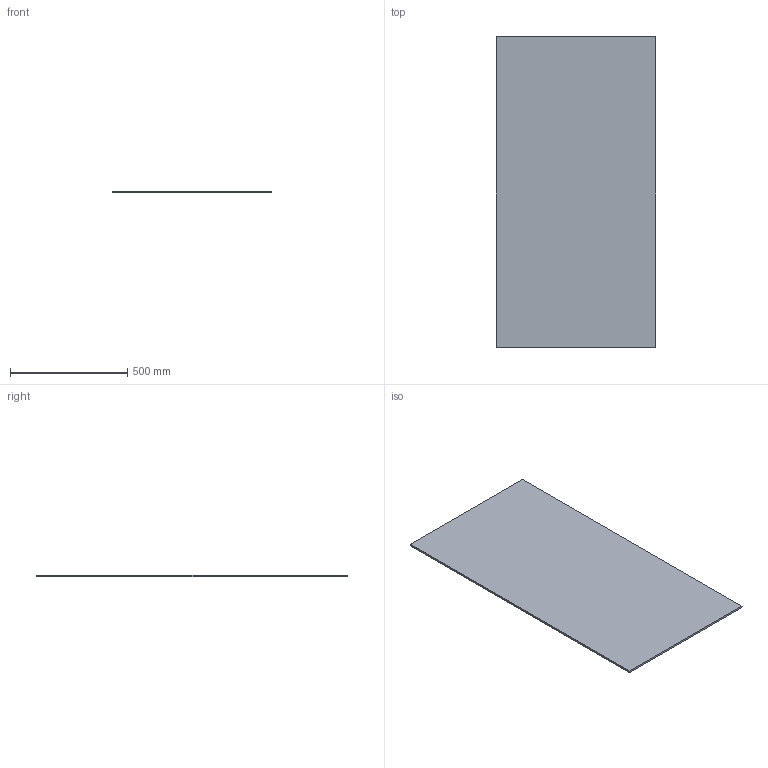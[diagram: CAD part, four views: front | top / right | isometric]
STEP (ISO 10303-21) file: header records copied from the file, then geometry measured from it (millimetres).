
FILE_DESCRIPTION(/* description */ (''),/* implementation_level */ '2;1');
FILE_NAME(/* name */ 'Pos164-Gelaagd glas 4.4.1, matte folie-Glas-1st',/* time_stamp */ '2024-08-06T11:49:43+02:00',/* author */ (''),/* organization */ (''),/* preprocessor_version */ 'ST-DEVELOPER v16.5',/* originating_system */ 'HiCAD 2024 2901.2 Build 361',/* authorisation */ '');
FILE_SCHEMA (('AUTOMOTIVE_DESIGN { 1 0 10303 214 1 1 1 1 }'));
Length unit declared in the file: millimetre
Products named in the file (1): Pos164-Gelaagd glas 4.4.1, matte folie-Glas-1st
Bounding box: 679 x 1326 x 8.38 mm (x, y, z)
Volume: 7544966.5 mm3; surface area: 1834311.8 mm2
Topology: 1 solids, 1 shells, 6 faces, 12 edges, 8 vertices
Faces by surface type: plane 6
Entity records: 295 total; most frequent: CARTESIAN_POINT 26, PRESENTATION_STYLE_ASSIGNMENT 25, COLOUR_RGB 25, DRAUGHTING_PRE_DEFINED_CURVE_FONT 24, CURVE_STYLE 24, OVER_RIDING_STYLED_ITEM 24, ORIENTED_EDGE 24, DIRECTION 24
